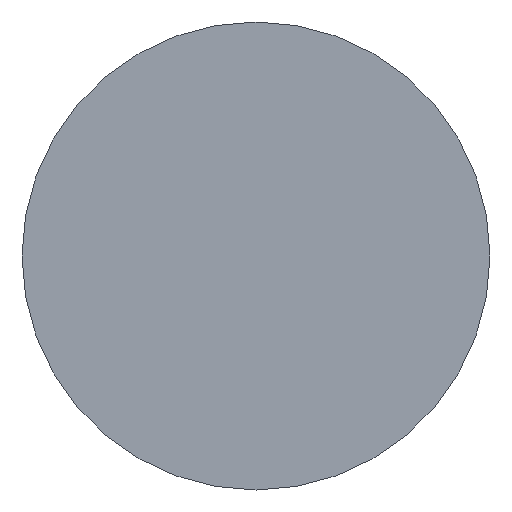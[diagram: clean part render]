
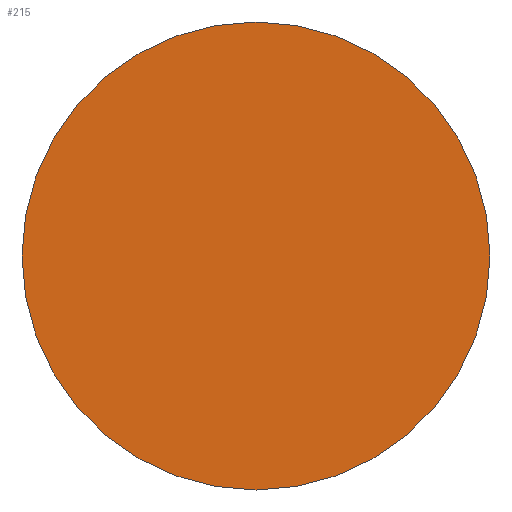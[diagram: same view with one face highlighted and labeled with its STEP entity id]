
A CAD part, left-side view. The second image highlights one B-rep face of the part: STEP entity #215.
In plain terms, the highlighted planar face has unit normal (-1, 0, 0).
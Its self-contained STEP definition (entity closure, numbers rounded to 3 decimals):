
#190=CARTESIAN_POINT('',(-386.034,-611.013,320.372));
#191=DIRECTION('',(1.0,0.0,0.0));
#192=DIRECTION('',(0.0,1.0,0.0));
#193=AXIS2_PLACEMENT_3D('',#190,#191,#192);
#194=PLANE('',#193);
#195=CARTESIAN_POINT('',(-386.034,-488.013,504.872));
#196=VERTEX_POINT('',#195);
#197=CARTESIAN_POINT('',(-386.034,-488.013,381.872));
#198=VERTEX_POINT('',#197);
#199=CARTESIAN_POINT('',(-386.034,-488.013,443.372));
#200=DIRECTION('',(-1.0,0.0,0.0));
#201=DIRECTION('',(0.0,0.0,1.0));
#202=AXIS2_PLACEMENT_3D('',#199,#200,#201);
#203=CIRCLE('',#202,61.5);
#204=EDGE_CURVE('',#196,#198,#203,.T.);
#205=ORIENTED_EDGE('',*,*,#204,.T.);
#206=CARTESIAN_POINT('',(-386.034,-488.013,443.372));
#207=DIRECTION('',(-1.0,0.0,0.0));
#208=DIRECTION('',(0.0,0.0,1.0));
#209=AXIS2_PLACEMENT_3D('',#206,#207,#208);
#210=CIRCLE('',#209,61.5);
#211=EDGE_CURVE('',#198,#196,#210,.T.);
#212=ORIENTED_EDGE('',*,*,#211,.T.);
#213=EDGE_LOOP('',(#205,#212));
#214=FACE_OUTER_BOUND('',#213,.T.);
#215=ADVANCED_FACE('',(#214),#194,.F.);
